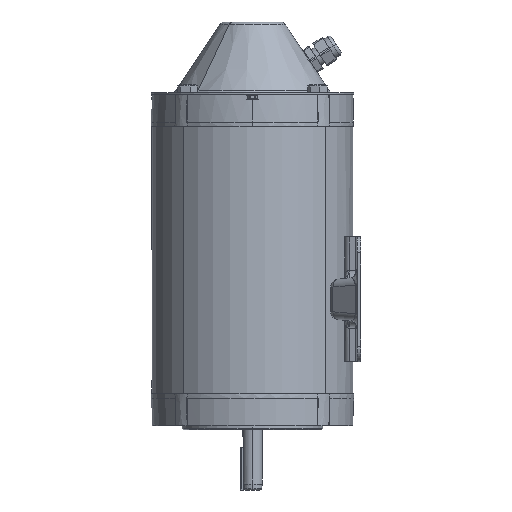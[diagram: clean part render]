
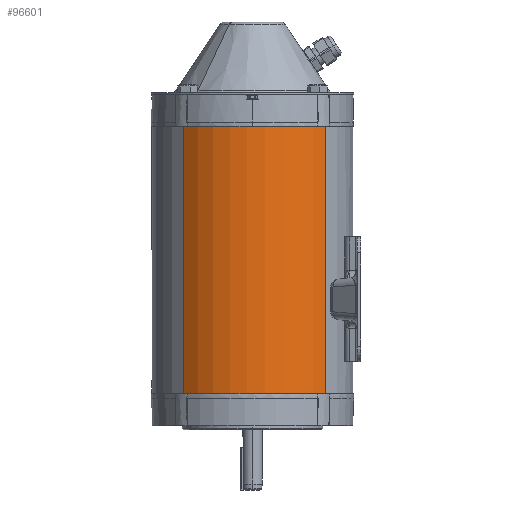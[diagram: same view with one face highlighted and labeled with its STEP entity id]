
A CAD part, left-side view. The second image highlights one B-rep face of the part: STEP entity #96601.
In plain terms, the highlighted cylindrical face has radius 81.749 mm (diameter 163.497 mm), a partial arc.
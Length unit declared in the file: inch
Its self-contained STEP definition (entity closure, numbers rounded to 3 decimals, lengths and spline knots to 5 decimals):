
#1672 = LINE ( 'NONE', #36632, #88549 ) ;
#2761 = ORIENTED_EDGE ( 'NONE', *, *, #65299, .F. ) ;
#5764 = DIRECTION ( 'NONE',  ( 0., 0., 1. ) ) ;
#14173 = ORIENTED_EDGE ( 'NONE', *, *, #69756, .F. ) ;
#16066 = AXIS2_PLACEMENT_3D ( 'NONE', #19998, #105012, #84946 ) ;
#18847 = ORIENTED_EDGE ( 'NONE', *, *, #66679, .F. ) ;
#19072 = EDGE_CURVE ( 'NONE', #122645, #117714, #50099, .T. ) ;
#19998 = CARTESIAN_POINT ( 'NONE',  ( 0., 0., 3.07756 ) ) ;
#36632 = CARTESIAN_POINT ( 'NONE',  ( -2.35383, 2.19498, -14.28723 ) ) ;
#36899 = DIRECTION ( 'NONE',  ( 0., 0., 1. ) ) ;
#37041 = VERTEX_POINT ( 'NONE', #96305 ) ;
#42587 = CYLINDRICAL_SURFACE ( 'NONE', #65193, 3.21845 ) ;
#50099 = CIRCLE ( 'NONE', #99766, 3.21845 ) ;
#50275 = DIRECTION ( 'NONE',  ( 0., 0., 1. ) ) ;
#51187 = DIRECTION ( 'NONE',  ( 1., 0., 0. ) ) ;
#65193 = AXIS2_PLACEMENT_3D ( 'NONE', #112059, #36899, #68700 ) ;
#65299 = EDGE_CURVE ( 'NONE', #37041, #109801, #105854, .T. ) ;
#65438 = LINE ( 'NONE', #107694, #100491 ) ;
#66679 = EDGE_CURVE ( 'NONE', #117714, #37041, #65438, .T. ) ;
#68700 = DIRECTION ( 'NONE',  ( 0.731, -0.682, 0. ) ) ;
#69756 = EDGE_CURVE ( 'NONE', #109801, #122645, #1672, .T. ) ;
#78752 = EDGE_LOOP ( 'NONE', ( #14173, #2761, #18847, #115287 ) ) ;
#78771 = CARTESIAN_POINT ( 'NONE',  ( -2.35383, 2.19498, 3.07756 ) ) ;
#81402 = CARTESIAN_POINT ( 'NONE',  ( -2.35383, 2.19498, 11.63756 ) ) ;
#81577 = CARTESIAN_POINT ( 'NONE',  ( -2.19498, -2.35383, 11.63756 ) ) ;
#84946 = DIRECTION ( 'NONE',  ( -1., 0., 0. ) ) ;
#88549 = VECTOR ( 'NONE', #5764, 39.37008 ) ;
#91115 = FACE_OUTER_BOUND ( 'NONE', #78752, .T. ) ;
#94185 = CARTESIAN_POINT ( 'NONE',  ( 0., 0., 11.63756 ) ) ;
#96305 = CARTESIAN_POINT ( 'NONE',  ( -2.19498, -2.35383, 3.07756 ) ) ;
#96601 = ADVANCED_FACE ( 'NONE', ( #91115 ), #42587, .T. ) ;
#99766 = AXIS2_PLACEMENT_3D ( 'NONE', #94185, #50275, #51187 ) ;
#100491 = VECTOR ( 'NONE', #108602, 39.37008 ) ;
#105012 = DIRECTION ( 'NONE',  ( 0., 0., -1. ) ) ;
#105854 = CIRCLE ( 'NONE', #16066, 3.21845 ) ;
#107694 = CARTESIAN_POINT ( 'NONE',  ( -2.19498, -2.35383, -14.28723 ) ) ;
#108602 = DIRECTION ( 'NONE',  ( 0., 0., -1. ) ) ;
#109801 = VERTEX_POINT ( 'NONE', #78771 ) ;
#112059 = CARTESIAN_POINT ( 'NONE',  ( 0., 0., -14.28723 ) ) ;
#115287 = ORIENTED_EDGE ( 'NONE', *, *, #19072, .F. ) ;
#117714 = VERTEX_POINT ( 'NONE', #81577 ) ;
#122645 = VERTEX_POINT ( 'NONE', #81402 ) ;
